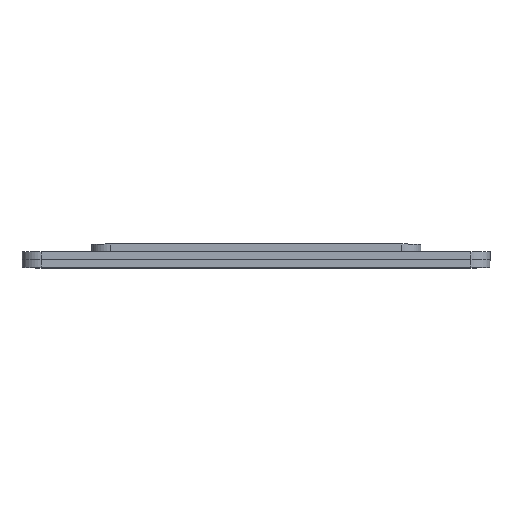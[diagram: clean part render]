
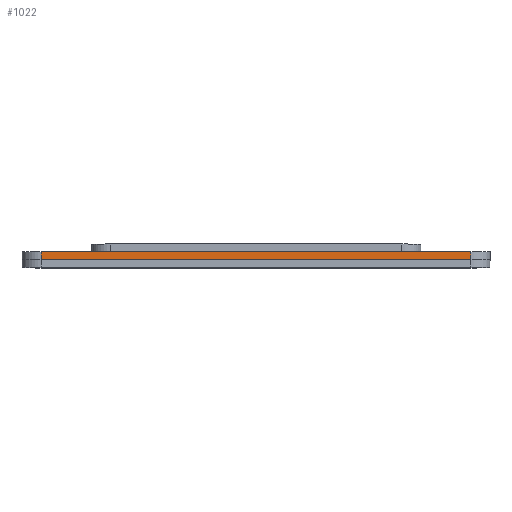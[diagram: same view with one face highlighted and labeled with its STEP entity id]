
A CAD part, top view. The second image highlights one B-rep face of the part: STEP entity #1022.
In plain terms, the highlighted planar face has unit normal (0, 0, 1) as drawn and (0, 1, 0) by its records, which use the part's own axes.
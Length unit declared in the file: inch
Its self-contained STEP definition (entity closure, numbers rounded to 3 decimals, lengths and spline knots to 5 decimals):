
#664 = DIRECTION ( 'NONE',  ( -1., 0., 0. ) ) ;
#671 = CARTESIAN_POINT ( 'NONE',  ( -3.8125, 3.8125, 0. ) ) ;
#1022 = ADVANCED_FACE ( 'NONE', ( #3175 ), #5647, .F. ) ;
#2016 = EDGE_CURVE ( 'NONE', #5490, #5494, #4927, .T. ) ;
#2153 = EDGE_CURVE ( 'NONE', #5545, #5242, #5107, .T. ) ;
#2188 = EDGE_CURVE ( 'NONE', #5494, #5242, #6456, .T. ) ;
#2201 = EDGE_CURVE ( 'NONE', #5545, #5490, #6479, .T. ) ;
#2356 = AXIS2_PLACEMENT_3D ( 'NONE', #5280, #5555, #5568 ) ;
#2990 = EDGE_LOOP ( 'NONE', ( #5967, #5968, #5969, #5970 ) ) ;
#3175 = FACE_OUTER_BOUND ( 'NONE', #2990, .T. ) ;
#3206 = CARTESIAN_POINT ( 'NONE',  ( 3.5025, 3.8125, 0.128 ) ) ;
#3250 = CARTESIAN_POINT ( 'NONE',  ( -3.5025, 3.8125, 0. ) ) ;
#3253 = CARTESIAN_POINT ( 'NONE',  ( 3.5025, 3.8125, 0. ) ) ;
#3438 = CARTESIAN_POINT ( 'NONE',  ( -3.5025, 3.8125, 0.128 ) ) ;
#4148 = DIRECTION ( 'NONE',  ( 0., 0., -1. ) ) ;
#4149 = CARTESIAN_POINT ( 'NONE',  ( 3.5025, 3.8125, 0.128 ) ) ;
#4194 = DIRECTION ( 'NONE',  ( 0., 0., 1. ) ) ;
#4195 = CARTESIAN_POINT ( 'NONE',  ( -3.5025, 3.8125, 0.128 ) ) ;
#4556 = DIRECTION ( 'NONE',  ( -1., 0., 0. ) ) ;
#4558 = CARTESIAN_POINT ( 'NONE',  ( -3.8125, 3.8125, 0.128 ) ) ;
#4924 = VECTOR ( 'NONE', #664, 39.37008 ) ;
#4927 = LINE ( 'NONE', #671, #4924 ) ;
#5107 = LINE ( 'NONE', #4558, #5111 ) ;
#5111 = VECTOR ( 'NONE', #4556, 39.37008 ) ;
#5242 = VERTEX_POINT ( 'NONE', #3438 ) ;
#5280 = CARTESIAN_POINT ( 'NONE',  ( -3.8125, 3.8125, 0.128 ) ) ;
#5490 = VERTEX_POINT ( 'NONE', #3253 ) ;
#5494 = VERTEX_POINT ( 'NONE', #3250 ) ;
#5545 = VERTEX_POINT ( 'NONE', #3206 ) ;
#5555 = DIRECTION ( 'NONE',  ( 0., -1., 0. ) ) ;
#5568 = DIRECTION ( 'NONE',  ( 0., 0., -1. ) ) ;
#5647 = PLANE ( 'NONE',  #2356 ) ;
#5967 = ORIENTED_EDGE ( 'NONE', *, *, #2153, .F. ) ;
#5968 = ORIENTED_EDGE ( 'NONE', *, *, #2201, .T. ) ;
#5969 = ORIENTED_EDGE ( 'NONE', *, *, #2016, .T. ) ;
#5970 = ORIENTED_EDGE ( 'NONE', *, *, #2188, .T. ) ;
#6456 = LINE ( 'NONE', #4195, #6457 ) ;
#6457 = VECTOR ( 'NONE', #4194, 39.37008 ) ;
#6479 = LINE ( 'NONE', #4149, #6480 ) ;
#6480 = VECTOR ( 'NONE', #4148, 39.37008 ) ;
